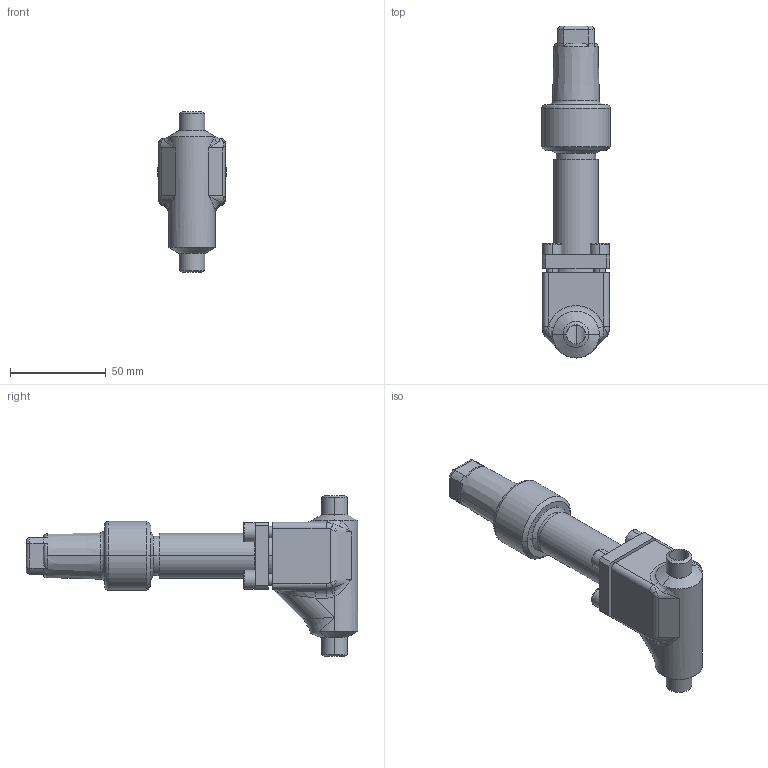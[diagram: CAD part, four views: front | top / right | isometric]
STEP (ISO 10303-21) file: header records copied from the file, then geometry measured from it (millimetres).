
FILE_DESCRIPTION (( 'STEP AP214' ), '1' );
FILE_NAME ('AVR96310-DN008_R1_PS40.STEP', '2006-05-02T07:51:48', ( 'Herr Grams' ), ( 'AWP GmbH' ), 'SwSTEP 2.0', 'SolidWorks 2002296', '' );
FILE_SCHEMA (( 'AUTOMOTIVE_DESIGN' ));
Length unit declared in the file: millimetre
Products named in the file (6): AVR96310-DN008_R1_PS40; Kappe96300E10_DN6-20_Standard; AVR96310E10_Deck+Schr-DN6-15_Standard; Deckel96310E10-DN6-15_PS40_Standard; Zylinderschraube-DIN912_M 6x 18; Gehäuse96300E07-DN08_PS40_R1_Standard
Assembly tree (8 placements, depth 3):
  AVR96310-DN008_R1_PS40
    Gehäuse96300E07-DN08_PS40_R1_Standard
    AVR96310E10_Deck+Schr-DN6-15_Standard
      Zylinderschraube-DIN912_M 6x 18  x4
      Deckel96310E10-DN6-15_PS40_Standard
    Kappe96300E10_DN6-20_Standard
Bounding box: 36 x 173.2 x 84 mm (x, y, z)
Volume: 118562.4 mm3; surface area: 38378.8 mm2
Topology: 7 solids, 7 shells, 251 faces, 578 edges, 353 vertices
Faces by surface type: cylinder 88, plane 87, cone 27, bspline 25, torus 24
Entity records: 17513 total; most frequent: CARTESIAN_POINT 12498, ORIENTED_EDGE 912, DIRECTION 911, EDGE_CURVE 456, AXIS2_PLACEMENT_3D 376, VERTEX_POINT 281, EDGE_LOOP 223, ADVANCED_FACE 197
